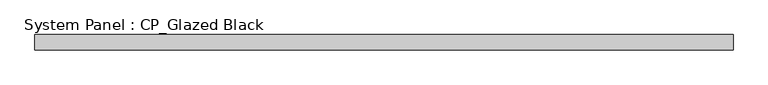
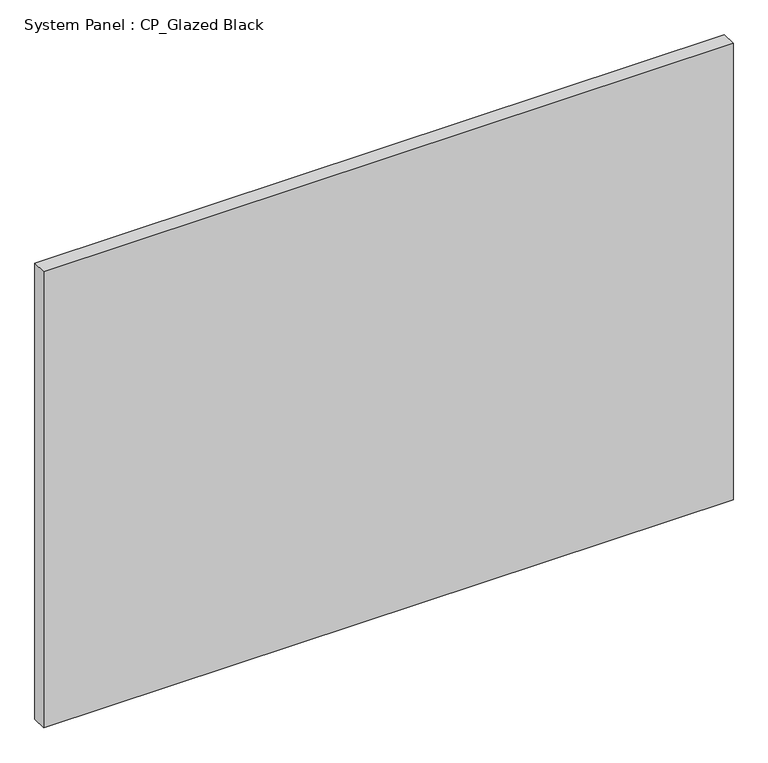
"""IFC4 building model written with IfcOpenShell, lengths in millimetres: plate geometry, System Panel : CP_Glazed Black."""

from ifc_helpers import new_model, si_unit, origin, origin_with_axes, place, context, project, spatial, polyline, outline, extrude, source, transform, mapped, element, save


def system_panel_cp_glazed_black_9dff4ef7(model_context):
    return source(origin(), model_context, "Body", "SweptSolid", [
        extrude(outline(polyline([(585.7139366, 19.05), (-585.7139366, 19.05), (-585.7139366, 44.45), (585.7139366, 44.45), (585.7139366, 19.05)])), origin_with_axes(), (0.0, 0.0, 1.0), 819.15),
    ])


if __name__ == "__main__":
    model = new_model("IFC4")
    model_context = context("Model", 3, world=origin())
    ifc_project = project(units=[si_unit("LENGTHUNIT", "METRE", prefix="MILLI")], contexts=[model_context])
    site = spatial("IfcSite", under=ifc_project)
    building = spatial("IfcBuilding", under=site)
    placement = place(None, origin())
    system_panel_cp_glazed_black_shape = system_panel_cp_glazed_black_9dff4ef7(model_context)
    element("IfcPlate", 1, ObjectType="System Panel : CP_Glazed Black", at=placement, inside=building, context=model_context, shape_type="MappedRepresentation", body=[
        mapped(system_panel_cp_glazed_black_shape, transform((0.0, 0.0, 0.0), x_axis=(1.0, 0.0, 0.0), y_axis=(0.0, 1.0, 0.0), z_axis=(0.0, 0.0, 1.0))),
    ])
    save(model, "model.ifc")
